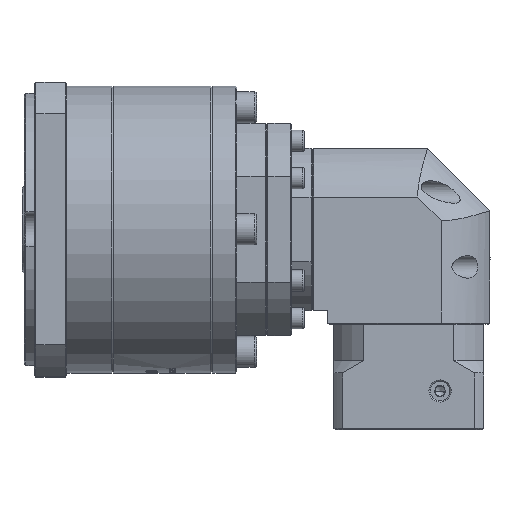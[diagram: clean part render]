
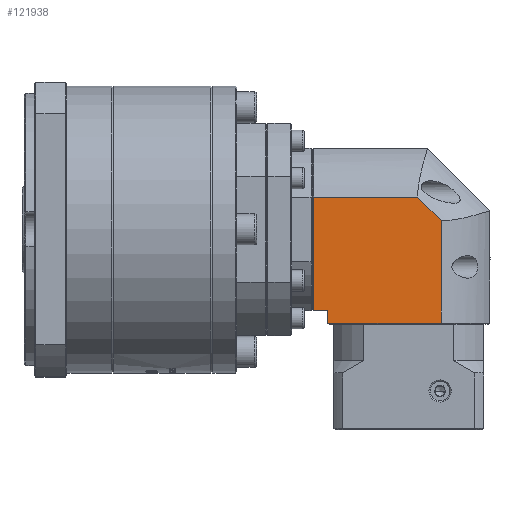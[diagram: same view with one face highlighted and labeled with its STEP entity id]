
A CAD part, top view. The second image highlights one B-rep face of the part: STEP entity #121938.
In plain terms, the highlighted planar face has unit normal (0, 0, 1).
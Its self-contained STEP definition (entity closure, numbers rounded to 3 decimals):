
#521 = CARTESIAN_POINT ( 'NONE',  ( 41.382, -40.7, -98.558 ) ) ;
#8269 = EDGE_CURVE ( 'NONE', #64221, #146224, #123678, .T. ) ;
#10836 = DIRECTION ( 'NONE',  ( -1., 0., 0. ) ) ;
#12027 = CARTESIAN_POINT ( 'NONE',  ( -9.808, 29.3, -98.558 ) ) ;
#13408 = VECTOR ( 'NONE', #22907, 1000. ) ;
#14452 = LINE ( 'NONE', #12027, #48786 ) ;
#14789 = ORIENTED_EDGE ( 'NONE', *, *, #8269, .F. ) ;
#18487 = CARTESIAN_POINT ( 'NONE',  ( -14.108, -40.7, -98.558 ) ) ;
#19023 = VERTEX_POINT ( 'NONE', #521 ) ;
#20705 = CARTESIAN_POINT ( 'NONE',  ( 41.382, 29.3, -98.558 ) ) ;
#20732 = VECTOR ( 'NONE', #91195, 1000. ) ;
#22165 = CARTESIAN_POINT ( 'NONE',  ( -14.108, -35.7, -98.558 ) ) ;
#22907 = DIRECTION ( 'NONE',  ( 0., 1., 0. ) ) ;
#24405 = CARTESIAN_POINT ( 'NONE',  ( 31.885, 9.79, -98.558 ) ) ;
#25033 = DIRECTION ( 'NONE',  ( 0., 1., 0. ) ) ;
#26933 = CARTESIAN_POINT ( 'NONE',  ( -14.108, 9.79, -98.558 ) ) ;
#31133 = LINE ( 'NONE', #20705, #61389 ) ;
#41176 = VECTOR ( 'NONE', #108832, 1000. ) ;
#42014 = DIRECTION ( 'NONE',  ( 0., 0., -1. ) ) ;
#44173 = CARTESIAN_POINT ( 'NONE',  ( -9.808, 9.79, -98.558 ) ) ;
#47579 = EDGE_CURVE ( 'NONE', #95460, #64221, #14452, .T. ) ;
#48786 = VECTOR ( 'NONE', #25033, 1000. ) ;
#57035 = CARTESIAN_POINT ( 'NONE',  ( -4.108, -40.7, -98.558 ) ) ;
#58530 = VERTEX_POINT ( 'NONE', #69137 ) ;
#61389 = VECTOR ( 'NONE', #111055, 1000. ) ;
#64221 = VERTEX_POINT ( 'NONE', #44173 ) ;
#64742 = EDGE_LOOP ( 'NONE', ( #101902, #14789, #102380, #148141, #142501, #130340, #88005 ) ) ;
#69137 = CARTESIAN_POINT ( 'NONE',  ( 41.382, 0.293, -98.558 ) ) ;
#71482 = CARTESIAN_POINT ( 'NONE',  ( 31.885, 9.79, -98.558 ) ) ;
#71710 = EDGE_CURVE ( 'NONE', #161459, #95460, #158063, .T. ) ;
#72144 = CARTESIAN_POINT ( 'NONE',  ( -4.108, -35.7, -98.558 ) ) ;
#75193 = LINE ( 'NONE', #71482, #139674 ) ;
#77001 = EDGE_CURVE ( 'NONE', #58530, #19023, #31133, .T. ) ;
#80262 = EDGE_CURVE ( 'NONE', #19023, #110304, #109825, .T. ) ;
#84491 = DIRECTION ( 'NONE',  ( 0.707, -0.707, 0. ) ) ;
#88005 = ORIENTED_EDGE ( 'NONE', *, *, #77001, .F. ) ;
#91195 = DIRECTION ( 'NONE',  ( 1., 0., 0. ) ) ;
#95460 = VERTEX_POINT ( 'NONE', #128354 ) ;
#101902 = ORIENTED_EDGE ( 'NONE', *, *, #148204, .F. ) ;
#102380 = ORIENTED_EDGE ( 'NONE', *, *, #47579, .F. ) ;
#108832 = DIRECTION ( 'NONE',  ( -1., 0., 0. ) ) ;
#109825 = LINE ( 'NONE', #18487, #41176 ) ;
#110304 = VERTEX_POINT ( 'NONE', #57035 ) ;
#111055 = DIRECTION ( 'NONE',  ( 0., -1., 0. ) ) ;
#116401 = LINE ( 'NONE', #164271, #13408 ) ;
#119288 = CARTESIAN_POINT ( 'NONE',  ( -14.108, 29.3, -98.558 ) ) ;
#121597 = EDGE_CURVE ( 'NONE', #110304, #161459, #116401, .T. ) ;
#121938 = ADVANCED_FACE ( 'NONE', ( #134196 ), #144492, .F. ) ;
#123678 = LINE ( 'NONE', #26933, #20732 ) ;
#123935 = VECTOR ( 'NONE', #10836, 1000. ) ;
#128354 = CARTESIAN_POINT ( 'NONE',  ( -9.808, -35.7, -98.558 ) ) ;
#130340 = ORIENTED_EDGE ( 'NONE', *, *, #80262, .F. ) ;
#132143 = DIRECTION ( 'NONE',  ( -1., 0., 0. ) ) ;
#134196 = FACE_OUTER_BOUND ( 'NONE', #64742, .T. ) ;
#139674 = VECTOR ( 'NONE', #84491, 1000. ) ;
#141427 = AXIS2_PLACEMENT_3D ( 'NONE', #119288, #42014, #132143 ) ;
#142501 = ORIENTED_EDGE ( 'NONE', *, *, #121597, .F. ) ;
#144492 = PLANE ( 'NONE',  #141427 ) ;
#146224 = VERTEX_POINT ( 'NONE', #24405 ) ;
#148141 = ORIENTED_EDGE ( 'NONE', *, *, #71710, .F. ) ;
#148204 = EDGE_CURVE ( 'NONE', #146224, #58530, #75193, .T. ) ;
#158063 = LINE ( 'NONE', #22165, #123935 ) ;
#161459 = VERTEX_POINT ( 'NONE', #72144 ) ;
#164271 = CARTESIAN_POINT ( 'NONE',  ( -4.108, 29.3, -98.558 ) ) ;
